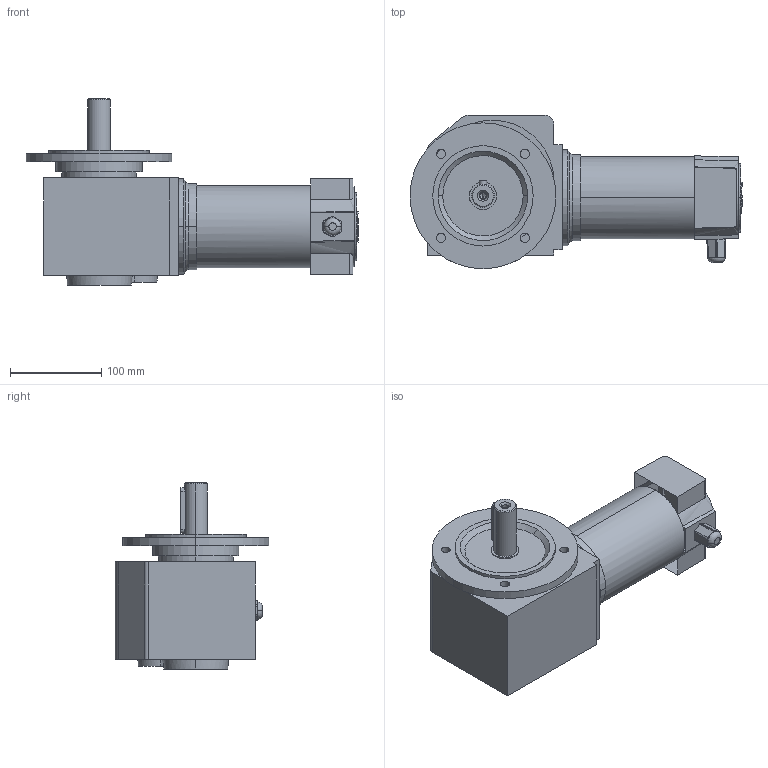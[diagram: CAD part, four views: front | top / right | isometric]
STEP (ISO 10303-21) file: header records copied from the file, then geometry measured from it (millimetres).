
FILE_DESCRIPTION(('OneSpaceDesigner STEP Export'),'2;1');
FILE_NAME('EPG23_ZF48.stp','2008-07-22T10:54:11',(''),(''),'OneSpace Designer STEP processor (Jan. 2003) for AP214(CD)(Solid Model)','OneSpace Designer 12.01D 09-Jul-2004 (C) CoCreate Software GmbH','');
FILE_SCHEMA(('AUTOMOTIVE_DESIGN_CC2 {1 2 10303 214 -1 1 5 1}'));
Length unit declared in the file: millimetre
Products named in the file (2): EPG23_ZF48
Assembly tree (1 placements, depth 2):
  EPG23_ZF48
    EPG23_ZF48
Bounding box: 364 x 168.5 x 204 mm (x, y, z)
Volume: 4038056.5 mm3; surface area: 220802.1 mm2
Topology: 1 solids, 1 shells, 133 faces, 322 edges, 210 vertices
Faces by surface type: cylinder 55, plane 54, cone 10, bspline 10, torus 4
Entity records: 10461 total; most frequent: CARTESIAN_POINT 7569, ORIENTED_EDGE 640, DIRECTION 486, EDGE_CURVE 320, VERTEX_POINT 210, AXIS2_PLACEMENT_3D 169, EDGE_LOOP 162, VECTOR 148
